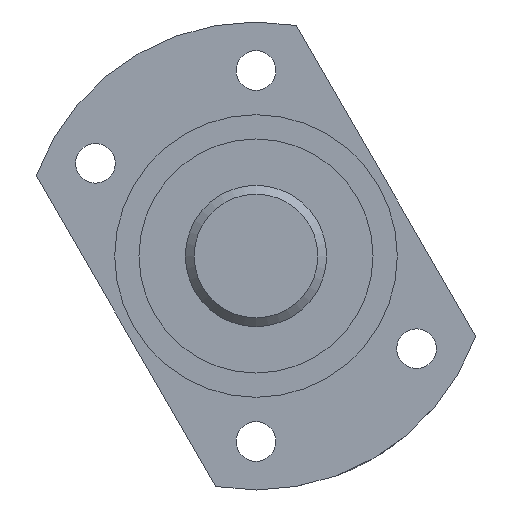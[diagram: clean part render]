
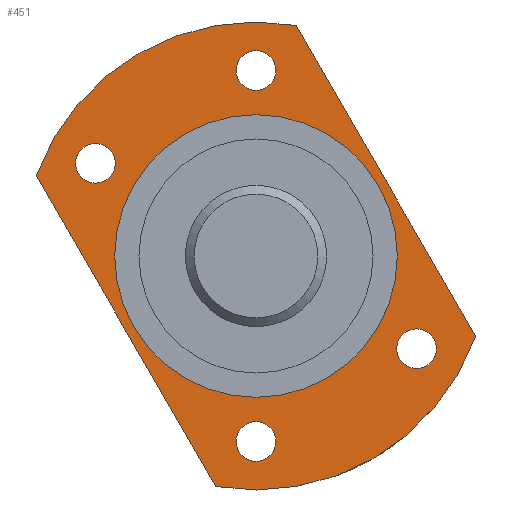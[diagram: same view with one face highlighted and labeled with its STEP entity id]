
A CAD part, left-side view. The second image highlights one B-rep face of the part: STEP entity #451.
In plain terms, the highlighted planar face has unit normal (-1, 0, 0).
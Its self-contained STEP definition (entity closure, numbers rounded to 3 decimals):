
#8 = DIRECTION ( 'NONE',  ( 0., 0.5, 0.866 ) ) ;
#24 = DIRECTION ( 'NONE',  ( 0., -0.866, 0.5 ) ) ;
#46 = ORIENTED_EDGE ( 'NONE', *, *, #586, .T. ) ;
#64 = FACE_OUTER_BOUND ( 'NONE', #1001, .T. ) ;
#91 = VERTEX_POINT ( 'NONE', #618 ) ;
#121 = DIRECTION ( 'NONE',  ( 1., 0., 0. ) ) ;
#123 = ORIENTED_EDGE ( 'NONE', *, *, #747, .T. ) ;
#125 = VERTEX_POINT ( 'NONE', #530 ) ;
#135 = CARTESIAN_POINT ( 'NONE',  ( 122.82, 79.856, 9.105 ) ) ;
#143 = LINE ( 'NONE', #917, #523 ) ;
#144 = VERTEX_POINT ( 'NONE', #333 ) ;
#154 = CARTESIAN_POINT ( 'NONE',  ( 122.82, 54.969, 21. ) ) ;
#164 = EDGE_CURVE ( 'NONE', #1249, #1249, #286, .T. ) ;
#168 = CARTESIAN_POINT ( 'NONE',  ( 122.82, 68.825, -8. ) ) ;
#179 = EDGE_LOOP ( 'NONE', ( #997 ) ) ;
#186 = AXIS2_PLACEMENT_3D ( 'NONE', #1221, #407, #1180 ) ;
#238 = VERTEX_POINT ( 'NONE', #1047 ) ;
#266 = AXIS2_PLACEMENT_3D ( 'NONE', #154, #970, #666 ) ;
#280 = ORIENTED_EDGE ( 'NONE', *, *, #1218, .T. ) ;
#284 = EDGE_LOOP ( 'NONE', ( #1053 ) ) ;
#286 = CIRCLE ( 'NONE', #994, 2.25 ) ;
#301 = CARTESIAN_POINT ( 'NONE',  ( 122.82, 69.691, -8.5 ) ) ;
#330 = CARTESIAN_POINT ( 'NONE',  ( 122.82, 54.969, 0. ) ) ;
#333 = CARTESIAN_POINT ( 'NONE',  ( 122.82, 30.082, -9.105 ) ) ;
#339 = VERTEX_POINT ( 'NONE', #1070 ) ;
#378 = CARTESIAN_POINT ( 'NONE',  ( 122.82, 71.207, 11.625 ) ) ;
#407 = DIRECTION ( 'NONE',  ( 1., 0., 0. ) ) ;
#421 = CIRCLE ( 'NONE', #1251, 2.25 ) ;
#451 = ADVANCED_FACE ( 'NONE', ( #977, #64, #550, #753, #959, #461 ), #1301, .T. ) ;
#457 = VECTOR ( 'NONE', #984, 1000. ) ;
#461 = FACE_BOUND ( 'NONE', #284, .T. ) ;
#472 = ORIENTED_EDGE ( 'NONE', *, *, #682, .T. ) ;
#518 = DIRECTION ( 'NONE',  ( 0., -1., 0. ) ) ;
#523 = VECTOR ( 'NONE', #8, 1000. ) ;
#530 = CARTESIAN_POINT ( 'NONE',  ( 122.82, 38.969, 0. ) ) ;
#533 = EDGE_LOOP ( 'NONE', ( #757 ) ) ;
#546 = EDGE_LOOP ( 'NONE', ( #472 ) ) ;
#550 = FACE_BOUND ( 'NONE', #179, .T. ) ;
#586 = EDGE_CURVE ( 'NONE', #1214, #1043, #1215, .T. ) ;
#618 = CARTESIAN_POINT ( 'NONE',  ( 122.82, 50.411, 26.105 ) ) ;
#650 = DIRECTION ( 'NONE',  ( -1., 0., 0. ) ) ;
#664 = DIRECTION ( 'NONE',  ( -1., 0., 0. ) ) ;
#666 = DIRECTION ( 'NONE',  ( 0., -0.866, 0.5 ) ) ;
#682 = EDGE_CURVE ( 'NONE', #238, #238, #823, .T. ) ;
#695 = EDGE_CURVE ( 'NONE', #125, #125, #1002, .T. ) ;
#705 = CARTESIAN_POINT ( 'NONE',  ( 122.82, 59.527, -26.105 ) ) ;
#747 = EDGE_CURVE ( 'NONE', #144, #91, #143, .T. ) ;
#753 = FACE_BOUND ( 'NONE', #1219, .T. ) ;
#757 = ORIENTED_EDGE ( 'NONE', *, *, #695, .F. ) ;
#820 = AXIS2_PLACEMENT_3D ( 'NONE', #168, #1203, #873 ) ;
#823 = CIRCLE ( 'NONE', #186, 2.25 ) ;
#847 = CIRCLE ( 'NONE', #1007, 26.5 ) ;
#856 = EDGE_CURVE ( 'NONE', #339, #339, #862, .T. ) ;
#862 = CIRCLE ( 'NONE', #266, 2.25 ) ;
#871 = ORIENTED_EDGE ( 'NONE', *, *, #1008, .T. ) ;
#873 = DIRECTION ( 'NONE',  ( 0., 1., 0. ) ) ;
#891 = AXIS2_PLACEMENT_3D ( 'NONE', #1027, #919, #518 ) ;
#917 = CARTESIAN_POINT ( 'NONE',  ( 122.82, 40.247, 8.5 ) ) ;
#919 = DIRECTION ( 'NONE',  ( -1., 0., 0. ) ) ;
#930 = AXIS2_PLACEMENT_3D ( 'NONE', #1139, #1281, #1272 ) ;
#932 = CARTESIAN_POINT ( 'NONE',  ( 122.82, 73.155, 10.5 ) ) ;
#959 = FACE_BOUND ( 'NONE', #546, .T. ) ;
#970 = DIRECTION ( 'NONE',  ( -1., 0., 0. ) ) ;
#976 = VERTEX_POINT ( 'NONE', #378 ) ;
#977 = FACE_BOUND ( 'NONE', #533, .T. ) ;
#979 = CARTESIAN_POINT ( 'NONE',  ( 122.82, 54.969, -21. ) ) ;
#984 = DIRECTION ( 'NONE',  ( 0., -0.5, -0.866 ) ) ;
#994 = AXIS2_PLACEMENT_3D ( 'NONE', #979, #664, #1302 ) ;
#997 = ORIENTED_EDGE ( 'NONE', *, *, #856, .F. ) ;
#1001 = EDGE_LOOP ( 'NONE', ( #46, #1321, #123, #871 ) ) ;
#1002 = CIRCLE ( 'NONE', #930, 16. ) ;
#1007 = AXIS2_PLACEMENT_3D ( 'NONE', #330, #650, #1155 ) ;
#1008 = EDGE_CURVE ( 'NONE', #91, #1214, #1144, .T. ) ;
#1027 = CARTESIAN_POINT ( 'NONE',  ( 122.82, 54.969, 0. ) ) ;
#1043 = VERTEX_POINT ( 'NONE', #705 ) ;
#1047 = CARTESIAN_POINT ( 'NONE',  ( 122.82, 34.834, -9.375 ) ) ;
#1053 = ORIENTED_EDGE ( 'NONE', *, *, #164, .F. ) ;
#1070 = CARTESIAN_POINT ( 'NONE',  ( 122.82, 53.02, 22.125 ) ) ;
#1133 = CARTESIAN_POINT ( 'NONE',  ( 122.82, 53.02, -19.875 ) ) ;
#1139 = CARTESIAN_POINT ( 'NONE',  ( 122.82, 54.969, 0. ) ) ;
#1144 = CIRCLE ( 'NONE', #891, 26.5 ) ;
#1154 = EDGE_CURVE ( 'NONE', #1043, #144, #847, .T. ) ;
#1155 = DIRECTION ( 'NONE',  ( 0., -1., 0. ) ) ;
#1180 = DIRECTION ( 'NONE',  ( 0., -0.866, 0.5 ) ) ;
#1203 = DIRECTION ( 'NONE',  ( -1., 0., 0. ) ) ;
#1214 = VERTEX_POINT ( 'NONE', #135 ) ;
#1215 = LINE ( 'NONE', #301, #457 ) ;
#1218 = EDGE_CURVE ( 'NONE', #976, #976, #421, .T. ) ;
#1219 = EDGE_LOOP ( 'NONE', ( #280 ) ) ;
#1221 = CARTESIAN_POINT ( 'NONE',  ( 122.82, 36.782, -10.5 ) ) ;
#1249 = VERTEX_POINT ( 'NONE', #1133 ) ;
#1251 = AXIS2_PLACEMENT_3D ( 'NONE', #932, #121, #24 ) ;
#1272 = DIRECTION ( 'NONE',  ( 0., -1., 0. ) ) ;
#1281 = DIRECTION ( 'NONE',  ( -1., 0., 0. ) ) ;
#1301 = PLANE ( 'NONE',  #820 ) ;
#1302 = DIRECTION ( 'NONE',  ( 0., -0.866, 0.5 ) ) ;
#1321 = ORIENTED_EDGE ( 'NONE', *, *, #1154, .T. ) ;
